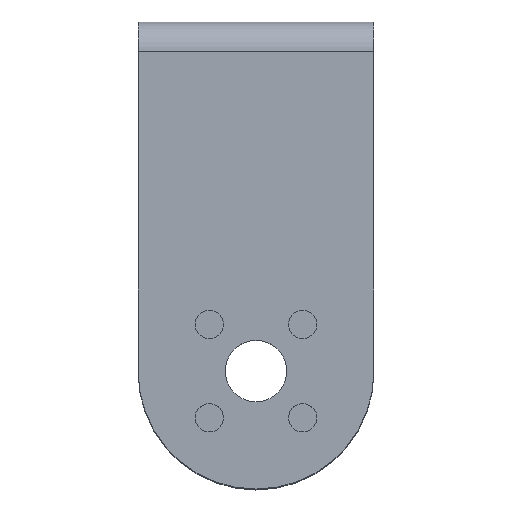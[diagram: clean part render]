
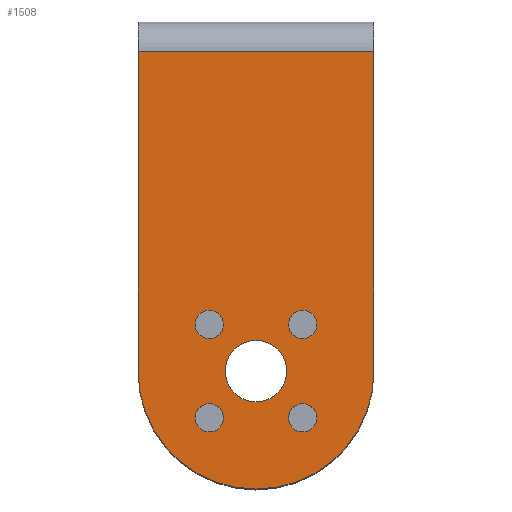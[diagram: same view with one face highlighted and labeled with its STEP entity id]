
A CAD part, top view. The second image highlights one B-rep face of the part: STEP entity #1508.
In plain terms, the highlighted planar face has unit normal (0, 0, 1).
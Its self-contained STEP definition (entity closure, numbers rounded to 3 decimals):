
#16 = EDGE_CURVE ( 'NONE', #1649, #732, #1717, .T. ) ;
#24 = AXIS2_PLACEMENT_3D ( 'NONE', #842, #1118, #704 ) ;
#26 = CARTESIAN_POINT ( 'NONE',  ( -3.45, -32.05, 28.15 ) ) ;
#38 = CARTESIAN_POINT ( 'NONE',  ( 3.45, -41.95, 28.15 ) ) ;
#40 = CIRCLE ( 'NONE', #387, 1.5 ) ;
#54 = VERTEX_POINT ( 'NONE', #311 ) ;
#79 = FACE_BOUND ( 'NONE', #184, .T. ) ;
#88 = DIRECTION ( 'NONE',  ( 0., 1., 0. ) ) ;
#105 = AXIS2_PLACEMENT_3D ( 'NONE', #398, #603, #681 ) ;
#116 = DIRECTION ( 'NONE',  ( 0., 0., 1. ) ) ;
#147 = EDGE_LOOP ( 'NONE', ( #1337, #1173 ) ) ;
#151 = AXIS2_PLACEMENT_3D ( 'NONE', #1069, #1479, #530 ) ;
#161 = EDGE_CURVE ( 'NONE', #543, #551, #1103, .T. ) ;
#175 = ORIENTED_EDGE ( 'NONE', *, *, #1376, .T. ) ;
#184 = EDGE_LOOP ( 'NONE', ( #1170, #238 ) ) ;
#201 = FACE_BOUND ( 'NONE', #370, .T. ) ;
#223 = CIRCLE ( 'NONE', #1055, 3.25 ) ;
#227 = EDGE_LOOP ( 'NONE', ( #1642, #488 ) ) ;
#232 = CARTESIAN_POINT ( 'NONE',  ( 4.95, -41.95, 28.15 ) ) ;
#238 = ORIENTED_EDGE ( 'NONE', *, *, #1409, .F. ) ;
#239 = VERTEX_POINT ( 'NONE', #491 ) ;
#254 = CIRCLE ( 'NONE', #24, 1.5 ) ;
#265 = CARTESIAN_POINT ( 'NONE',  ( 6.45, -32.05, 28.15 ) ) ;
#271 = CARTESIAN_POINT ( 'NONE',  ( -6.45, -32.05, 28.15 ) ) ;
#275 = CARTESIAN_POINT ( 'NONE',  ( -3.45, -41.95, 28.15 ) ) ;
#296 = EDGE_CURVE ( 'NONE', #892, #239, #1273, .T. ) ;
#307 = CARTESIAN_POINT ( 'NONE',  ( 12.5, -3.15, 28.15 ) ) ;
#311 = CARTESIAN_POINT ( 'NONE',  ( 12.5, -37., 28.15 ) ) ;
#316 = DIRECTION ( 'NONE',  ( 0., 0., 1. ) ) ;
#324 = EDGE_LOOP ( 'NONE', ( #1161, #175, #1370, #790, #968 ) ) ;
#327 = LINE ( 'NONE', #1571, #447 ) ;
#355 = EDGE_CURVE ( 'NONE', #732, #1649, #1499, .T. ) ;
#356 = LINE ( 'NONE', #490, #1392 ) ;
#359 = FACE_BOUND ( 'NONE', #1551, .T. ) ;
#370 = EDGE_LOOP ( 'NONE', ( #1388, #1728 ) ) ;
#387 = AXIS2_PLACEMENT_3D ( 'NONE', #1323, #803, #1350 ) ;
#393 = AXIS2_PLACEMENT_3D ( 'NONE', #818, #1368, #541 ) ;
#398 = CARTESIAN_POINT ( 'NONE',  ( 0., -37., 28.15 ) ) ;
#418 = EDGE_CURVE ( 'NONE', #754, #1108, #40, .T. ) ;
#447 = VECTOR ( 'NONE', #879, 1000. ) ;
#466 = CARTESIAN_POINT ( 'NONE',  ( -3.25, -37., 28.15 ) ) ;
#488 = ORIENTED_EDGE ( 'NONE', *, *, #1721, .F. ) ;
#490 = CARTESIAN_POINT ( 'NONE',  ( 0., -3.15, 28.15 ) ) ;
#491 = CARTESIAN_POINT ( 'NONE',  ( 0., -49.5, 28.15 ) ) ;
#496 = DIRECTION ( 'NONE',  ( 1., 0., 0. ) ) ;
#501 = CARTESIAN_POINT ( 'NONE',  ( -12.5, -49.5, 28.15 ) ) ;
#513 = DIRECTION ( 'NONE',  ( 1., 0., 0. ) ) ;
#530 = DIRECTION ( 'NONE',  ( 1., 0., 0. ) ) ;
#541 = DIRECTION ( 'NONE',  ( 1., 0., 0. ) ) ;
#543 = VERTEX_POINT ( 'NONE', #1094 ) ;
#551 = VERTEX_POINT ( 'NONE', #275 ) ;
#580 = CARTESIAN_POINT ( 'NONE',  ( -4.95, -41.95, 28.15 ) ) ;
#595 = CIRCLE ( 'NONE', #393, 1.5 ) ;
#603 = DIRECTION ( 'NONE',  ( 0., 0., 1. ) ) ;
#651 = AXIS2_PLACEMENT_3D ( 'NONE', #1136, #316, #1038 ) ;
#655 = CARTESIAN_POINT ( 'NONE',  ( 3.45, -32.05, 28.15 ) ) ;
#674 = EDGE_CURVE ( 'NONE', #1056, #986, #356, .T. ) ;
#681 = DIRECTION ( 'NONE',  ( 1., 0., 0. ) ) ;
#704 = DIRECTION ( 'NONE',  ( 1., 0., 0. ) ) ;
#732 = VERTEX_POINT ( 'NONE', #655 ) ;
#745 = DIRECTION ( 'NONE',  ( 0., 1., 0. ) ) ;
#754 = VERTEX_POINT ( 'NONE', #1753 ) ;
#786 = CARTESIAN_POINT ( 'NONE',  ( 4.95, -32.05, 28.15 ) ) ;
#790 = ORIENTED_EDGE ( 'NONE', *, *, #674, .F. ) ;
#803 = DIRECTION ( 'NONE',  ( 0., 0., 1. ) ) ;
#818 = CARTESIAN_POINT ( 'NONE',  ( -4.95, -32.05, 28.15 ) ) ;
#822 = AXIS2_PLACEMENT_3D ( 'NONE', #1001, #1680, #1532 ) ;
#842 = CARTESIAN_POINT ( 'NONE',  ( -4.95, -32.05, 28.15 ) ) ;
#858 = VECTOR ( 'NONE', #1053, 1000. ) ;
#868 = ORIENTED_EDGE ( 'NONE', *, *, #418, .F. ) ;
#869 = ORIENTED_EDGE ( 'NONE', *, *, #1166, .F. ) ;
#879 = DIRECTION ( 'NONE',  ( 0., 1., 0. ) ) ;
#882 = CARTESIAN_POINT ( 'NONE',  ( 0., -37., 28.15 ) ) ;
#892 = VERTEX_POINT ( 'NONE', #997 ) ;
#911 = CARTESIAN_POINT ( 'NONE',  ( 0., 0., 28.15 ) ) ;
#926 = DIRECTION ( 'NONE',  ( 0., 0., 1. ) ) ;
#934 = CARTESIAN_POINT ( 'NONE',  ( 0., -37., 28.15 ) ) ;
#968 = ORIENTED_EDGE ( 'NONE', *, *, #1517, .T. ) ;
#986 = VERTEX_POINT ( 'NONE', #307 ) ;
#997 = CARTESIAN_POINT ( 'NONE',  ( -12.5, -37., 28.15 ) ) ;
#1001 = CARTESIAN_POINT ( 'NONE',  ( 0., -37., 28.15 ) ) ;
#1006 = EDGE_CURVE ( 'NONE', #551, #543, #1667, .T. ) ;
#1013 = CARTESIAN_POINT ( 'NONE',  ( -12.5, -3.15, 28.15 ) ) ;
#1015 = EDGE_CURVE ( 'NONE', #54, #986, #327, .T. ) ;
#1038 = DIRECTION ( 'NONE',  ( 1., 0., 0. ) ) ;
#1046 = AXIS2_PLACEMENT_3D ( 'NONE', #580, #1128, #1271 ) ;
#1053 = DIRECTION ( 'NONE',  ( 0., -1., 0. ) ) ;
#1055 = AXIS2_PLACEMENT_3D ( 'NONE', #934, #926, #1189 ) ;
#1056 = VERTEX_POINT ( 'NONE', #1013 ) ;
#1069 = CARTESIAN_POINT ( 'NONE',  ( 4.95, -32.05, 28.15 ) ) ;
#1094 = CARTESIAN_POINT ( 'NONE',  ( -6.45, -41.95, 28.15 ) ) ;
#1103 = CIRCLE ( 'NONE', #1046, 1.5 ) ;
#1108 = VERTEX_POINT ( 'NONE', #38 ) ;
#1118 = DIRECTION ( 'NONE',  ( 0., 0., 1. ) ) ;
#1128 = DIRECTION ( 'NONE',  ( 0., 0., 1. ) ) ;
#1136 = CARTESIAN_POINT ( 'NONE',  ( -4.95, -41.95, 28.15 ) ) ;
#1161 = ORIENTED_EDGE ( 'NONE', *, *, #296, .T. ) ;
#1166 = EDGE_CURVE ( 'NONE', #1108, #754, #1336, .T. ) ;
#1170 = ORIENTED_EDGE ( 'NONE', *, *, #1210, .F. ) ;
#1171 = AXIS2_PLACEMENT_3D ( 'NONE', #911, #1453, #88 ) ;
#1173 = ORIENTED_EDGE ( 'NONE', *, *, #161, .F. ) ;
#1186 = LINE ( 'NONE', #501, #858 ) ;
#1189 = DIRECTION ( 'NONE',  ( 1., 0., 0. ) ) ;
#1197 = CIRCLE ( 'NONE', #105, 3.25 ) ;
#1210 = EDGE_CURVE ( 'NONE', #1396, #1460, #223, .T. ) ;
#1249 = AXIS2_PLACEMENT_3D ( 'NONE', #882, #1426, #745 ) ;
#1271 = DIRECTION ( 'NONE',  ( 1., 0., 0. ) ) ;
#1273 = CIRCLE ( 'NONE', #1249, 12.5 ) ;
#1280 = CIRCLE ( 'NONE', #822, 12.5 ) ;
#1299 = VERTEX_POINT ( 'NONE', #271 ) ;
#1305 = EDGE_CURVE ( 'NONE', #1718, #1299, #595, .T. ) ;
#1308 = FACE_BOUND ( 'NONE', #147, .T. ) ;
#1323 = CARTESIAN_POINT ( 'NONE',  ( 4.95, -41.95, 28.15 ) ) ;
#1334 = DIRECTION ( 'NONE',  ( 0., 0., 1. ) ) ;
#1336 = CIRCLE ( 'NONE', #1555, 1.5 ) ;
#1337 = ORIENTED_EDGE ( 'NONE', *, *, #1006, .F. ) ;
#1350 = DIRECTION ( 'NONE',  ( 1., 0., 0. ) ) ;
#1356 = CARTESIAN_POINT ( 'NONE',  ( 3.25, -37., 28.15 ) ) ;
#1368 = DIRECTION ( 'NONE',  ( 0., 0., 1. ) ) ;
#1370 = ORIENTED_EDGE ( 'NONE', *, *, #1015, .T. ) ;
#1376 = EDGE_CURVE ( 'NONE', #239, #54, #1280, .T. ) ;
#1388 = ORIENTED_EDGE ( 'NONE', *, *, #16, .F. ) ;
#1392 = VECTOR ( 'NONE', #1537, 1000. ) ;
#1396 = VERTEX_POINT ( 'NONE', #1356 ) ;
#1409 = EDGE_CURVE ( 'NONE', #1460, #1396, #1197, .T. ) ;
#1426 = DIRECTION ( 'NONE',  ( 0., 0., 1. ) ) ;
#1427 = FACE_OUTER_BOUND ( 'NONE', #324, .T. ) ;
#1453 = DIRECTION ( 'NONE',  ( 0., 0., -1. ) ) ;
#1460 = VERTEX_POINT ( 'NONE', #466 ) ;
#1479 = DIRECTION ( 'NONE',  ( 0., 0., 1. ) ) ;
#1499 = CIRCLE ( 'NONE', #1698, 1.5 ) ;
#1508 = ADVANCED_FACE ( 'NONE', ( #201, #1308, #359, #79, #1715, #1427 ), #1575, .F. ) ;
#1517 = EDGE_CURVE ( 'NONE', #1056, #892, #1186, .T. ) ;
#1532 = DIRECTION ( 'NONE',  ( 0., 1., 0. ) ) ;
#1537 = DIRECTION ( 'NONE',  ( 1., 0., 0. ) ) ;
#1551 = EDGE_LOOP ( 'NONE', ( #868, #869 ) ) ;
#1555 = AXIS2_PLACEMENT_3D ( 'NONE', #232, #116, #496 ) ;
#1571 = CARTESIAN_POINT ( 'NONE',  ( 12.5, -1.5, 28.15 ) ) ;
#1575 = PLANE ( 'NONE',  #1171 ) ;
#1642 = ORIENTED_EDGE ( 'NONE', *, *, #1305, .F. ) ;
#1649 = VERTEX_POINT ( 'NONE', #265 ) ;
#1667 = CIRCLE ( 'NONE', #651, 1.5 ) ;
#1680 = DIRECTION ( 'NONE',  ( 0., 0., 1. ) ) ;
#1698 = AXIS2_PLACEMENT_3D ( 'NONE', #786, #1334, #513 ) ;
#1715 = FACE_BOUND ( 'NONE', #227, .T. ) ;
#1717 = CIRCLE ( 'NONE', #151, 1.5 ) ;
#1718 = VERTEX_POINT ( 'NONE', #26 ) ;
#1721 = EDGE_CURVE ( 'NONE', #1299, #1718, #254, .T. ) ;
#1728 = ORIENTED_EDGE ( 'NONE', *, *, #355, .F. ) ;
#1753 = CARTESIAN_POINT ( 'NONE',  ( 6.45, -41.95, 28.15 ) ) ;
